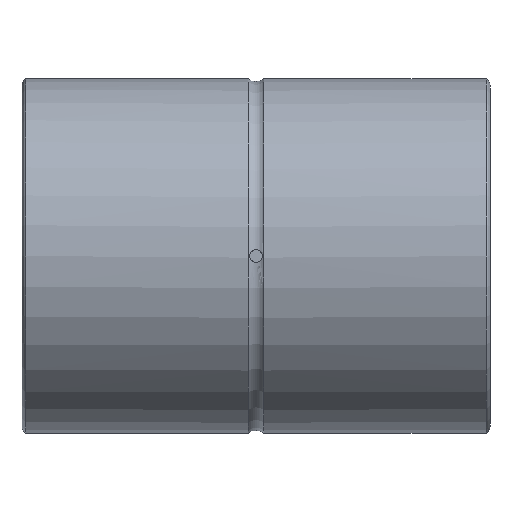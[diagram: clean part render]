
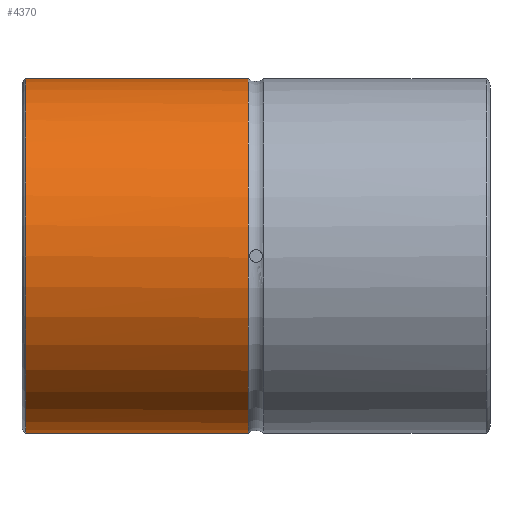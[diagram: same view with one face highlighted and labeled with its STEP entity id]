
A CAD part, front view. The second image highlights one B-rep face of the part: STEP entity #4370.
In plain terms, the highlighted cylindrical face has radius 70 mm (diameter 140 mm), a full revolution.
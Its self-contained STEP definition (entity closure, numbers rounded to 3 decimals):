
#23=B_SPLINE_CURVE_WITH_KNOTS('',3,(#7127,#7128,#7129,#7130,#7131,#7132,
#7133,#7134,#7135,#7136,#7137,#7138,#7139),.UNSPECIFIED.,.F.,.F.,(4,1,1,
1,1,1,1,1,1,1,4),(0.,0.003,0.005,0.008,
0.011,0.016,0.022,0.027,
0.033,0.038,0.044),.UNSPECIFIED.);
#414=LINE('',#7142,#832);
#415=LINE('',#7143,#833);
#832=VECTOR('',#5733,1000.);
#833=VECTOR('',#5734,1000.);
#1611=ORIENTED_EDGE('',*,*,#2658,.T.);
#1612=ORIENTED_EDGE('',*,*,#2659,.T.);
#1613=ORIENTED_EDGE('',*,*,#2651,.F.);
#1614=ORIENTED_EDGE('',*,*,#2660,.T.);
#1615=ORIENTED_EDGE('',*,*,#2657,.T.);
#2651=EDGE_CURVE('',#3175,#3176,#3488,.T.);
#2657=EDGE_CURVE('',#3181,#3181,#3490,.T.);
#2658=EDGE_CURVE('',#3182,#3183,#23,.T.);
#2659=EDGE_CURVE('',#3183,#3176,#414,.T.);
#2660=EDGE_CURVE('',#3175,#3182,#415,.F.);
#3175=VERTEX_POINT('',#7073);
#3176=VERTEX_POINT('',#7074);
#3181=VERTEX_POINT('',#7125);
#3182=VERTEX_POINT('',#7140);
#3183=VERTEX_POINT('',#7141);
#3488=CIRCLE('',#4780,70.);
#3490=CIRCLE('',#4783,70.);
#3691=EDGE_LOOP('',(#1611,#1612,#1613,#1614));
#3692=EDGE_LOOP('',(#1615));
#3987=FACE_BOUND('',#3691,.T.);
#3988=FACE_BOUND('',#3692,.T.);
#4214=CYLINDRICAL_SURFACE('',#4784,70.);
#4370=ADVANCED_FACE('',(#3987,#3988),#4214,.T.);
#4780=AXIS2_PLACEMENT_3D('',#7072,#5723,#5724);
#4783=AXIS2_PLACEMENT_3D('',#7124,#5729,#5730);
#4784=AXIS2_PLACEMENT_3D('',#7126,#5731,#5732);
#5723=DIRECTION('',(1.,0.,0.));
#5724=DIRECTION('',(0.,0.,-1.));
#5729=DIRECTION('',(1.,0.,0.));
#5730=DIRECTION('',(0.,0.,-1.));
#5731=DIRECTION('',(1.,0.,0.));
#5732=DIRECTION('',(0.,0.,-1.));
#5733=DIRECTION('',(1.,0.,0.));
#5734=DIRECTION('',(1.,0.,0.));
#7072=CARTESIAN_POINT('',(-3.,0.,0.));
#7073=CARTESIAN_POINT('',(-3.,68.586,14.));
#7074=CARTESIAN_POINT('',(-3.,68.586,-14.));
#7124=CARTESIAN_POINT('',(-91.,0.,0.));
#7125=CARTESIAN_POINT('',(-91.,0.,-70.));
#7126=CARTESIAN_POINT('',(92.5,0.,0.));
#7127=CARTESIAN_POINT('',(-32.5,68.586,14.));
#7128=CARTESIAN_POINT('',(-33.427,68.586,14.));
#7129=CARTESIAN_POINT('',(-35.245,68.623,13.82));
#7130=CARTESIAN_POINT('',(-37.91,68.783,13.01));
#7131=CARTESIAN_POINT('',(-40.323,69.018,11.718));
#7132=CARTESIAN_POINT('',(-43.18,69.39,9.376));
#7133=CARTESIAN_POINT('',(-45.761,69.847,5.516));
#7134=CARTESIAN_POINT('',(-46.867,70.076,0.012));
#7135=CARTESIAN_POINT('',(-45.772,69.849,-5.496));
#7136=CARTESIAN_POINT('',(-42.661,69.298,-10.152));
#7137=CARTESIAN_POINT('',(-38.012,68.742,-13.262));
#7138=CARTESIAN_POINT('',(-34.355,68.586,-14.));
#7139=CARTESIAN_POINT('',(-32.5,68.586,-14.));
#7140=CARTESIAN_POINT('',(-32.5,68.586,14.));
#7141=CARTESIAN_POINT('',(-32.5,68.586,-14.));
#7142=CARTESIAN_POINT('',(92.5,68.586,-14.));
#7143=CARTESIAN_POINT('',(92.5,68.586,14.));
